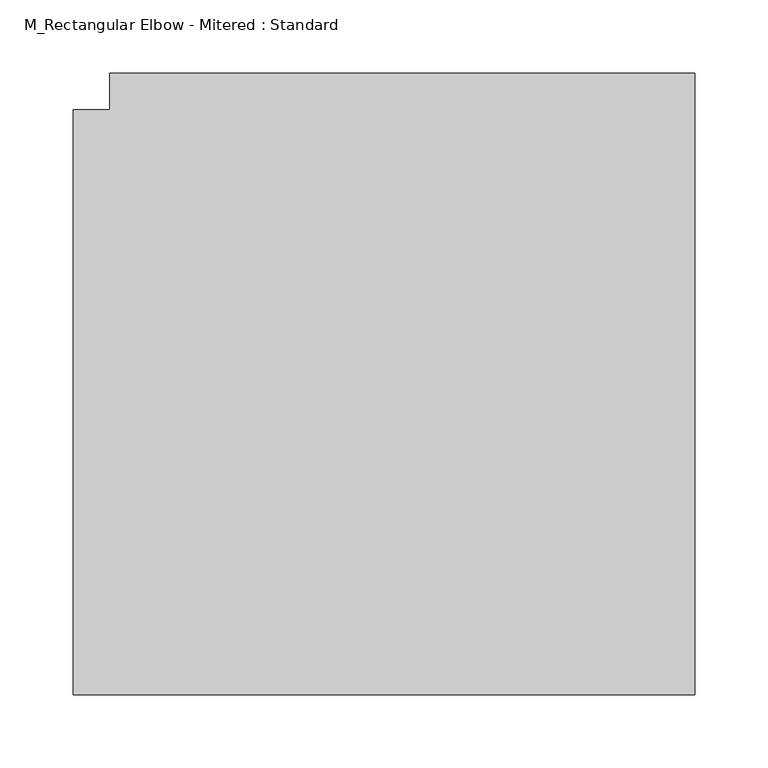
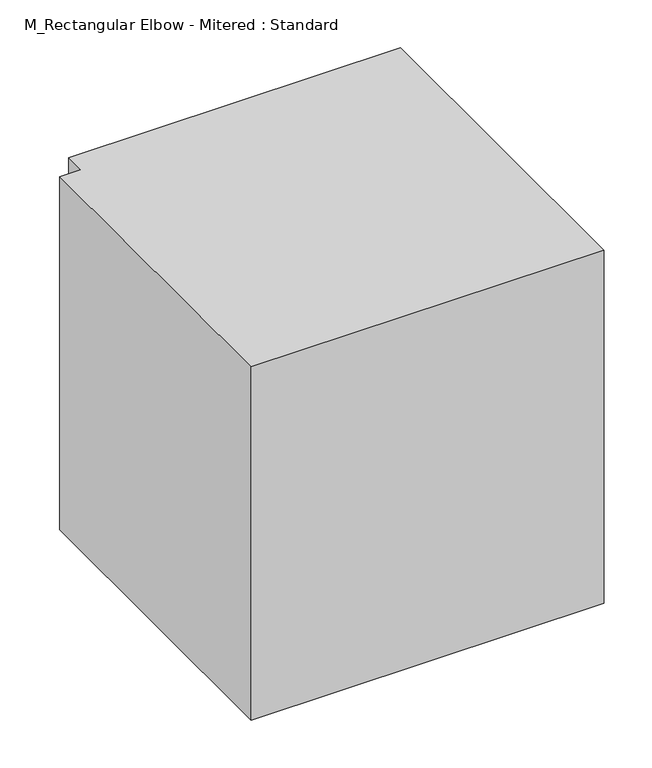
"""IFC4 building model written with IfcOpenShell, lengths in millimetres: duct fitting geometry, M_Rectangular Elbow - Mitered : Standard."""

from ifc_helpers import new_model, si_unit, frame, origin, place, context, project, spatial, polyline, outline, extrude, source, transform, mapped, element, save


def m_rectangular_elbow_mitered_standard_5eef5ae8(model_context):
    return source(origin(), model_context, "Body", "SweptSolid", [
        extrude(outline(polyline([(-225.0, -200.0), (-225.0, 200.0), (-200.0, 200.0), (-200.0, 225.0), (200.0, 225.0), (200.0, -200.0), (-225.0, -200.0)])), frame((0.0, 0.0, -225.0), z_axis=(0.0, 0.0, 1.0), x_axis=(1.0, 0.0, 0.0)), (0.0, 0.0, 1.0), 450.0),
        extrude(outline(polyline([(-225.0, -200.0), (-225.0, 200.0), (-200.0, 200.0), (-200.0, 225.0), (200.0, 225.0), (200.0, -200.0), (-225.0, -200.0)])), frame((0.0, 0.0, -225.0), z_axis=(0.0, 0.0, 1.0), x_axis=(1.0, 0.0, 0.0)), (0.0, 0.0, 1.0), 450.0),
        extrude(outline(polyline([(-225.0, -200.0), (-225.0, 200.0), (-200.0, 200.0), (-200.0, 225.0), (200.0, 225.0), (200.0, -200.0), (-225.0, -200.0)])), frame((0.0, 0.0, -225.0), z_axis=(0.0, 0.0, 1.0), x_axis=(1.0, 0.0, 0.0)), (0.0, 0.0, 1.0), 450.0),
    ])


if __name__ == "__main__":
    model = new_model("IFC4")
    model_context = context("Model", 3, world=origin())
    ifc_project = project(units=[si_unit("LENGTHUNIT", "METRE", prefix="MILLI")], contexts=[model_context])
    site = spatial("IfcSite", under=ifc_project)
    building = spatial("IfcBuilding", under=site)
    placement = place(None, origin())
    m_rectangular_elbow_mitered_standard_shape = m_rectangular_elbow_mitered_standard_5eef5ae8(model_context)
    element("IfcDuctFitting", 1, ObjectType="M_Rectangular Elbow - Mitered : Standard", at=placement, inside=building, context=model_context, shape_type="MappedRepresentation", body=[
        mapped(m_rectangular_elbow_mitered_standard_shape, transform((0.0, 0.0, 0.0), x_axis=(1.0, 0.0, 0.0), y_axis=(0.0, 1.0, 0.0), z_axis=(0.0, 0.0, 1.0))),
    ])
    save(model, "model.ifc")
